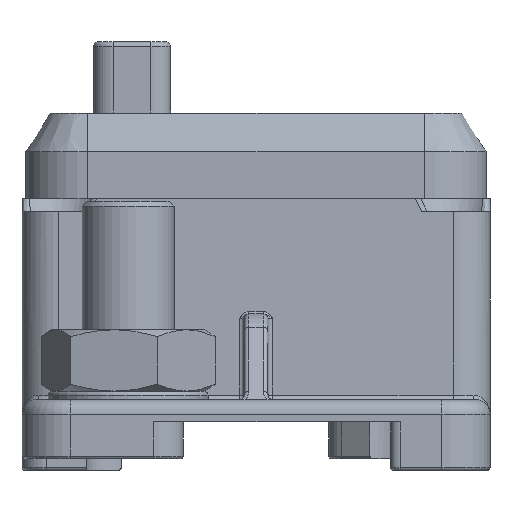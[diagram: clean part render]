
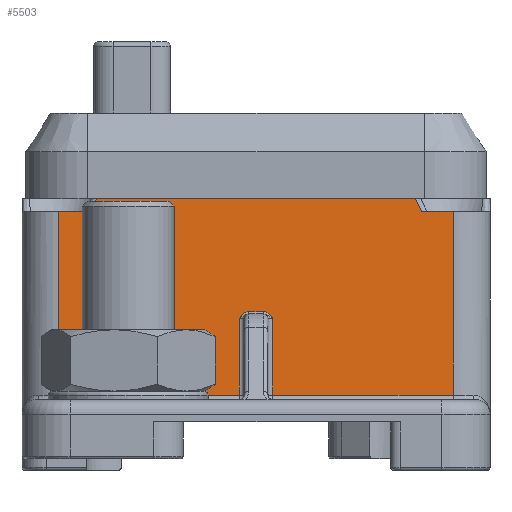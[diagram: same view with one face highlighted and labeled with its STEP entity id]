
A CAD part, left-side view. The second image highlights one B-rep face of the part: STEP entity #5503.
In plain terms, the highlighted planar face has unit normal (-1, 0, 0.02).
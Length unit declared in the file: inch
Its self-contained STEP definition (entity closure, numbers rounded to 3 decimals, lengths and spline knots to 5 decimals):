
#255=PLANE('',#6078);
#348=B_SPLINE_CURVE_WITH_KNOTS('',3,(#9666,#9667,#9668,#9669,#9670,#9671,
#9672,#9673),.UNSPECIFIED.,.F.,.F.,(4,2,1,1,4),(-0.12718,-0.12687,
-0.07612,-0.05075,0.),.UNSPECIFIED.);
#349=B_SPLINE_CURVE_WITH_KNOTS('',3,(#9721,#9722,#9723,#9724,#9725,#9726,
#9727,#9728),.UNSPECIFIED.,.F.,.F.,(4,1,1,2,4),(-0.12687,-0.07612,
-0.05075,0.,0.00031),.UNSPECIFIED.);
#351=B_SPLINE_CURVE_WITH_KNOTS('',3,(#9746,#9747,#9748,#9749),
 .UNSPECIFIED.,.F.,.F.,(4,4),(-0.16874,-0.01816),
 .UNSPECIFIED.);
#352=B_SPLINE_CURVE_WITH_KNOTS('',3,(#9751,#9752,#9753,#9754),
 .UNSPECIFIED.,.F.,.F.,(4,4),(-0.13273,0.01785),
 .UNSPECIFIED.);
#635=FACE_OUTER_BOUND('',#1002,.T.);
#1002=EDGE_LOOP('',(#4339,#4340,#4341,#4342,#4343,#4344,#4345,#4346,#4347,
#4348,#4349,#4350,#4351,#4352,#4353));
#1207=LINE('',#8331,#1568);
#1387=LINE('',#9242,#1748);
#1412=LINE('',#9679,#1773);
#1413=LINE('',#9739,#1774);
#1414=LINE('',#9741,#1775);
#1415=LINE('',#9743,#1776);
#1416=LINE('',#9745,#1777);
#1417=LINE('',#9756,#1778);
#1418=LINE('',#9757,#1779);
#1419=LINE('',#9759,#1780);
#1420=LINE('',#9760,#1781);
#1568=VECTOR('',#6433,0.3937);
#1748=VECTOR('',#7119,0.3937);
#1773=VECTOR('',#7268,0.3937);
#1774=VECTOR('',#7271,0.3937);
#1775=VECTOR('',#7272,0.3937);
#1776=VECTOR('',#7273,0.3937);
#1777=VECTOR('',#7274,0.3937);
#1778=VECTOR('',#7275,0.3937);
#1779=VECTOR('',#7276,0.3937);
#1780=VECTOR('',#7277,0.3937);
#1781=VECTOR('',#7278,0.3937);
#2224=VERTEX_POINT('',#8298);
#2225=VERTEX_POINT('',#8330);
#2441=VERTEX_POINT('',#9205);
#2448=VERTEX_POINT('',#9241);
#2496=VERTEX_POINT('',#9654);
#2498=VERTEX_POINT('',#9657);
#2499=VERTEX_POINT('',#9675);
#2501=VERTEX_POINT('',#9720);
#2502=VERTEX_POINT('',#9738);
#2503=VERTEX_POINT('',#9740);
#2504=VERTEX_POINT('',#9742);
#2505=VERTEX_POINT('',#9744);
#2506=VERTEX_POINT('',#9750);
#2507=VERTEX_POINT('',#9755);
#2508=VERTEX_POINT('',#9758);
#2743=EDGE_CURVE('',#2225,#2224,#1207,.T.);
#3076=EDGE_CURVE('',#2441,#2448,#1387,.T.);
#3151=EDGE_CURVE('',#2498,#2496,#348,.T.);
#3154=EDGE_CURVE('',#2496,#2499,#1412,.T.);
#3155=EDGE_CURVE('',#2499,#2501,#349,.T.);
#3157=EDGE_CURVE('',#2502,#2498,#1413,.T.);
#3158=EDGE_CURVE('',#2503,#2502,#1414,.T.);
#3159=EDGE_CURVE('',#2504,#2503,#1415,.T.);
#3160=EDGE_CURVE('',#2504,#2505,#1416,.T.);
#3161=EDGE_CURVE('',#2225,#2505,#351,.T.);
#3162=EDGE_CURVE('',#2506,#2224,#352,.T.);
#3163=EDGE_CURVE('',#2506,#2507,#1417,.T.);
#3164=EDGE_CURVE('',#2448,#2507,#1418,.T.);
#3165=EDGE_CURVE('',#2508,#2441,#1419,.T.);
#3166=EDGE_CURVE('',#2501,#2508,#1420,.T.);
#4339=ORIENTED_EDGE('',*,*,#3155,.F.);
#4340=ORIENTED_EDGE('',*,*,#3154,.F.);
#4341=ORIENTED_EDGE('',*,*,#3151,.F.);
#4342=ORIENTED_EDGE('',*,*,#3157,.F.);
#4343=ORIENTED_EDGE('',*,*,#3158,.F.);
#4344=ORIENTED_EDGE('',*,*,#3159,.F.);
#4345=ORIENTED_EDGE('',*,*,#3160,.T.);
#4346=ORIENTED_EDGE('',*,*,#3161,.F.);
#4347=ORIENTED_EDGE('',*,*,#2743,.T.);
#4348=ORIENTED_EDGE('',*,*,#3162,.F.);
#4349=ORIENTED_EDGE('',*,*,#3163,.T.);
#4350=ORIENTED_EDGE('',*,*,#3164,.F.);
#4351=ORIENTED_EDGE('',*,*,#3076,.F.);
#4352=ORIENTED_EDGE('',*,*,#3165,.F.);
#4353=ORIENTED_EDGE('',*,*,#3166,.F.);
#5503=ADVANCED_FACE('',(#635),#255,.F.);
#6078=AXIS2_PLACEMENT_3D('',#9737,#7269,#7270);
#6433=DIRECTION('',(0.,1.,0.));
#7119=DIRECTION('',(0.,1.,0.));
#7268=DIRECTION('',(0.,1.,0.));
#7269=DIRECTION('center_axis',(1.,0.,-0.02));
#7270=DIRECTION('ref_axis',(-0.02,0.,-1.));
#7271=DIRECTION('',(0.02,0.,1.));
#7272=DIRECTION('',(0.,1.,0.));
#7273=DIRECTION('',(-0.02,0.,-1.));
#7274=DIRECTION('',(0.,1.,0.));
#7275=DIRECTION('',(0.,1.,0.));
#7276=DIRECTION('',(0.02,0.,1.));
#7277=DIRECTION('',(0.,1.,0.));
#7278=DIRECTION('',(-0.02,0.,-1.));
#8298=CARTESIAN_POINT('',(0.92481,1.60523,0.91));
#8330=CARTESIAN_POINT('',(0.92481,0.30422,0.91));
#8331=CARTESIAN_POINT('',(0.92481,1.90945,0.91));
#9205=CARTESIAN_POINT('',(0.90894,1.15004,0.10929));
#9241=CARTESIAN_POINT('',(0.90894,1.75883,0.10929));
#9242=CARTESIAN_POINT('',(0.90894,0.47736,0.10929));
#9654=CARTESIAN_POINT('',(0.91569,0.92413,0.44973));
#9657=CARTESIAN_POINT('',(0.91512,0.88617,0.42078));
#9666=CARTESIAN_POINT('Ctrl Pts',(0.91512,0.88617,0.42078));
#9667=CARTESIAN_POINT('Ctrl Pts',(0.91512,0.88619,0.42082));
#9668=CARTESIAN_POINT('Ctrl Pts',(0.91512,0.88621,0.42086));
#9669=CARTESIAN_POINT('Ctrl Pts',(0.91523,0.88955,0.42665));
#9670=CARTESIAN_POINT('Ctrl Pts',(0.91541,0.89486,0.43537));
#9671=CARTESIAN_POINT('Ctrl Pts',(0.91562,0.90753,0.4464));
#9672=CARTESIAN_POINT('Ctrl Pts',(0.91569,0.91747,0.44973));
#9673=CARTESIAN_POINT('Ctrl Pts',(0.91569,0.92413,0.44973));
#9675=CARTESIAN_POINT('',(0.91569,0.98532,0.44973));
#9679=CARTESIAN_POINT('',(0.91569,0.47736,0.44973));
#9720=CARTESIAN_POINT('',(0.91512,1.02328,0.42078));
#9721=CARTESIAN_POINT('Ctrl Pts',(0.91569,0.98532,0.44973));
#9722=CARTESIAN_POINT('Ctrl Pts',(0.91569,0.99198,0.44973));
#9723=CARTESIAN_POINT('Ctrl Pts',(0.91562,1.00192,0.4464));
#9724=CARTESIAN_POINT('Ctrl Pts',(0.91541,1.01456,0.43537));
#9725=CARTESIAN_POINT('Ctrl Pts',(0.91523,1.01989,0.42665));
#9726=CARTESIAN_POINT('Ctrl Pts',(0.91512,1.02324,0.42086));
#9727=CARTESIAN_POINT('Ctrl Pts',(0.91512,1.02326,0.42082));
#9728=CARTESIAN_POINT('Ctrl Pts',(0.91512,1.02328,0.42078));
#9737=CARTESIAN_POINT('Origin',(0.90856,0.,0.09));
#9738=CARTESIAN_POINT('',(0.90894,0.88617,0.10929));
#9739=CARTESIAN_POINT('',(0.90991,0.88617,0.15801));
#9740=CARTESIAN_POINT('',(0.90894,0.15061,0.10929));
#9741=CARTESIAN_POINT('',(0.90894,0.47736,0.10929));
#9742=CARTESIAN_POINT('',(0.92376,0.15061,0.85685));
#9743=CARTESIAN_POINT('',(0.90749,0.15061,0.03602));
#9744=CARTESIAN_POINT('',(0.92376,0.27799,0.85685));
#9745=CARTESIAN_POINT('',(0.92376,0.07382,0.85685));
#9746=CARTESIAN_POINT('Ctrl Pts',(0.92481,0.30422,0.91));
#9747=CARTESIAN_POINT('Ctrl Pts',(0.92446,0.29575,0.89215));
#9748=CARTESIAN_POINT('Ctrl Pts',(0.92411,0.28706,0.8744));
#9749=CARTESIAN_POINT('Ctrl Pts',(0.92376,0.27799,0.85685));
#9750=CARTESIAN_POINT('',(0.92376,1.63146,0.85685));
#9751=CARTESIAN_POINT('Ctrl Pts',(0.92376,1.63146,0.85685));
#9752=CARTESIAN_POINT('Ctrl Pts',(0.92411,1.62239,0.8744));
#9753=CARTESIAN_POINT('Ctrl Pts',(0.92446,1.6137,0.89215));
#9754=CARTESIAN_POINT('Ctrl Pts',(0.92481,1.60523,0.91));
#9755=CARTESIAN_POINT('',(0.92376,1.75883,0.85685));
#9756=CARTESIAN_POINT('',(0.92376,0.88091,0.85685));
#9757=CARTESIAN_POINT('',(0.90815,1.75883,0.0696));
#9758=CARTESIAN_POINT('',(0.90894,1.02328,0.10929));
#9759=CARTESIAN_POINT('',(0.90894,0.47736,0.10929));
#9760=CARTESIAN_POINT('',(0.90991,1.02328,0.15801));
